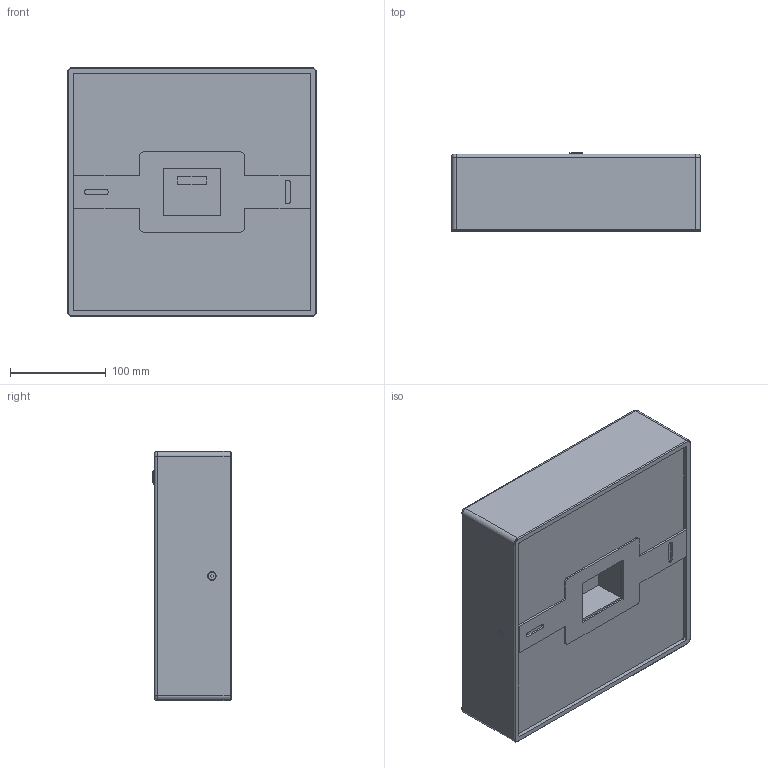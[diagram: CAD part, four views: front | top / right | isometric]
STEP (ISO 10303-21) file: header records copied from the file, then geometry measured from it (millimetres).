
FILE_DESCRIPTION(/* description */ (''),/* implementation_level */ '2;1');
FILE_NAME(/* name */ 'DA 250q.stp',/* time_stamp */ '2024-05-21T13:29:49+02:00',/* author */ ('d.streicher'),/* organization */ (''),/* preprocessor_version */ 'ST-DEVELOPER v20',/* originating_system */ 'Autodesk Inventor 2025',/* authorisation */ '');
FILE_SCHEMA (('AUTOMOTIVE_DESIGN { 1 0 10303 214 3 1 1 }'));
Length unit declared in the file: millimetre
Products named in the file (1): DA 250q weiß
Bounding box: 260 x 81.5 x 260 mm (x, y, z)
Volume: 5085925.1 mm3; surface area: 251235.7 mm2
Topology: 2 solids, 2 shells, 116 faces, 285 edges, 186 vertices
Faces by surface type: plane 76, cylinder 32, torus 4, bspline 4
Full cylindrical faces by diameter (mm): 8 x2, 9 x2
Entity records: 3639 total; most frequent: CARTESIAN_POINT 619, DIRECTION 584, ORIENTED_EDGE 568, EDGE_CURVE 284, LINE 212, VECTOR 212, AXIS2_PLACEMENT_3D 186, VERTEX_POINT 184
